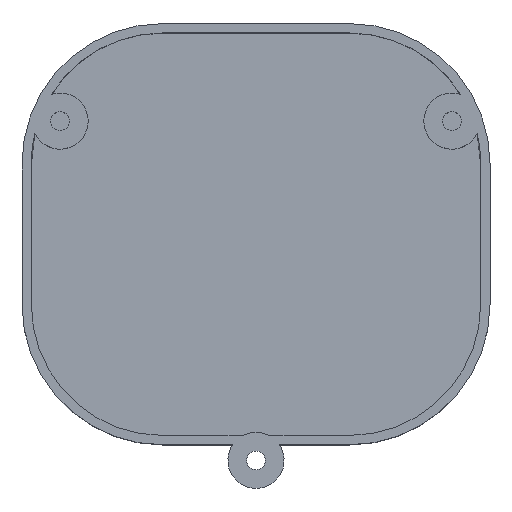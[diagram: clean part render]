
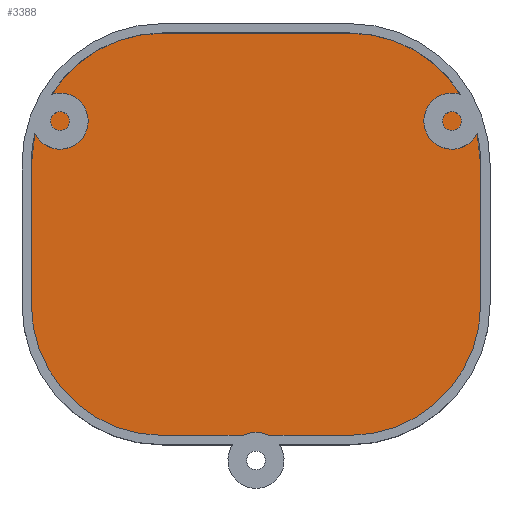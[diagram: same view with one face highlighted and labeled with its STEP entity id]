
A CAD part, top view. The second image highlights one B-rep face of the part: STEP entity #3388.
In plain terms, the highlighted planar face has unit normal (0, 0, 1).
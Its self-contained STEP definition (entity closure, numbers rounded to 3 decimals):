
#776 = PLANE('',#777);
#777 = AXIS2_PLACEMENT_3D('',#778,#779,#780);
#778 = CARTESIAN_POINT('',(-28.8,-25.8,1.));
#779 = DIRECTION('',(0.,1.,0.));
#780 = DIRECTION('',(1.,0.,0.));
#855 = CYLINDRICAL_SURFACE('',#856,16.8);
#856 = AXIS2_PLACEMENT_3D('',#857,#858,#859);
#857 = CARTESIAN_POINT('',(-12.,-9.,1.));
#858 = DIRECTION('',(0.,0.,1.));
#859 = DIRECTION('',(0.,-1.,0.));
#883 = PLANE('',#884);
#884 = AXIS2_PLACEMENT_3D('',#885,#886,#887);
#885 = CARTESIAN_POINT('',(-28.8,25.8,1.));
#886 = DIRECTION('',(1.,0.,-0.));
#887 = DIRECTION('',(0.,-1.,0.));
#911 = CYLINDRICAL_SURFACE('',#912,16.8);
#912 = AXIS2_PLACEMENT_3D('',#913,#914,#915);
#913 = CARTESIAN_POINT('',(-12.,9.,1.));
#914 = DIRECTION('',(0.,0.,1.));
#915 = DIRECTION('',(-0.,1.,0.));
#992 = PLANE('',#993);
#993 = AXIS2_PLACEMENT_3D('',#994,#995,#996);
#994 = CARTESIAN_POINT('',(28.8,25.8,1.));
#995 = DIRECTION('',(0.,-1.,0.));
#996 = DIRECTION('',(-1.,0.,0.));
#1020 = CYLINDRICAL_SURFACE('',#1021,16.8);
#1021 = AXIS2_PLACEMENT_3D('',#1022,#1023,#1024);
#1022 = CARTESIAN_POINT('',(12.,9.,1.));
#1023 = DIRECTION('',(0.,0.,1.));
#1024 = DIRECTION('',(1.,0.,-0.));
#1101 = PLANE('',#1102);
#1102 = AXIS2_PLACEMENT_3D('',#1103,#1104,#1105);
#1103 = CARTESIAN_POINT('',(28.8,-25.8,1.));
#1104 = DIRECTION('',(-1.,0.,0.));
#1105 = DIRECTION('',(0.,1.,0.));
#1127 = CYLINDRICAL_SURFACE('',#1128,16.8);
#1128 = AXIS2_PLACEMENT_3D('',#1129,#1130,#1131);
#1129 = CARTESIAN_POINT('',(12.,-9.,1.));
#1130 = DIRECTION('',(0.,0.,1.));
#1131 = DIRECTION('',(0.,-1.,0.));
#2188 = EDGE_CURVE('',#2189,#2191,#2193,.T.);
#2189 = VERTEX_POINT('',#2190);
#2190 = CARTESIAN_POINT('',(-12.,-25.8,1.));
#2191 = VERTEX_POINT('',#2192);
#2192 = CARTESIAN_POINT('',(12.,-25.8,1.));
#2193 = SURFACE_CURVE('',#2194,(#2198,#2205),.PCURVE_S1.);
#2194 = LINE('',#2195,#2196);
#2195 = CARTESIAN_POINT('',(-28.8,-25.8,1.));
#2196 = VECTOR('',#2197,1.);
#2197 = DIRECTION('',(1.,0.,0.));
#2198 = PCURVE('',#776,#2199);
#2199 = DEFINITIONAL_REPRESENTATION('',(#2200),#2204);
#2200 = LINE('',#2201,#2202);
#2201 = CARTESIAN_POINT('',(0.,0.));
#2202 = VECTOR('',#2203,1.);
#2203 = DIRECTION('',(1.,0.));
#2204 = ( GEOMETRIC_REPRESENTATION_CONTEXT(2) 
PARAMETRIC_REPRESENTATION_CONTEXT() REPRESENTATION_CONTEXT('2D SPACE',''
  ) );
#2205 = PCURVE('',#2206,#2211);
#2206 = PLANE('',#2207);
#2207 = AXIS2_PLACEMENT_3D('',#2208,#2209,#2210);
#2208 = CARTESIAN_POINT('',(0.,0.,1.));
#2209 = DIRECTION('',(0.,0.,1.));
#2210 = DIRECTION('',(1.,0.,-0.));
#2211 = DEFINITIONAL_REPRESENTATION('',(#2212),#2216);
#2212 = LINE('',#2213,#2214);
#2213 = CARTESIAN_POINT('',(-28.8,-25.8));
#2214 = VECTOR('',#2215,1.);
#2215 = DIRECTION('',(1.,0.));
#2216 = ( GEOMETRIC_REPRESENTATION_CONTEXT(2) 
PARAMETRIC_REPRESENTATION_CONTEXT() REPRESENTATION_CONTEXT('2D SPACE',''
  ) );
#2332 = EDGE_CURVE('',#2191,#2333,#2335,.T.);
#2333 = VERTEX_POINT('',#2334);
#2334 = CARTESIAN_POINT('',(28.8,-9.,1.));
#2335 = SURFACE_CURVE('',#2336,(#2341,#2348),.PCURVE_S1.);
#2336 = CIRCLE('',#2337,16.8);
#2337 = AXIS2_PLACEMENT_3D('',#2338,#2339,#2340);
#2338 = CARTESIAN_POINT('',(12.,-9.,1.));
#2339 = DIRECTION('',(0.,0.,1.));
#2340 = DIRECTION('',(0.,-1.,0.));
#2341 = PCURVE('',#1127,#2342);
#2342 = DEFINITIONAL_REPRESENTATION('',(#2343),#2347);
#2343 = LINE('',#2344,#2345);
#2344 = CARTESIAN_POINT('',(0.,0.));
#2345 = VECTOR('',#2346,1.);
#2346 = DIRECTION('',(1.,0.));
#2347 = ( GEOMETRIC_REPRESENTATION_CONTEXT(2) 
PARAMETRIC_REPRESENTATION_CONTEXT() REPRESENTATION_CONTEXT('2D SPACE',''
  ) );
#2348 = PCURVE('',#2206,#2349);
#2349 = DEFINITIONAL_REPRESENTATION('',(#2350),#2354);
#2350 = CIRCLE('',#2351,16.8);
#2351 = AXIS2_PLACEMENT_2D('',#2352,#2353);
#2352 = CARTESIAN_POINT('',(12.,-9.));
#2353 = DIRECTION('',(0.,-1.));
#2354 = ( GEOMETRIC_REPRESENTATION_CONTEXT(2) 
PARAMETRIC_REPRESENTATION_CONTEXT() REPRESENTATION_CONTEXT('2D SPACE',''
  ) );
#2409 = EDGE_CURVE('',#2333,#2410,#2412,.T.);
#2410 = VERTEX_POINT('',#2411);
#2411 = CARTESIAN_POINT('',(28.8,9.,1.));
#2412 = SURFACE_CURVE('',#2413,(#2417,#2424),.PCURVE_S1.);
#2413 = LINE('',#2414,#2415);
#2414 = CARTESIAN_POINT('',(28.8,-25.8,1.));
#2415 = VECTOR('',#2416,1.);
#2416 = DIRECTION('',(0.,1.,0.));
#2417 = PCURVE('',#1101,#2418);
#2418 = DEFINITIONAL_REPRESENTATION('',(#2419),#2423);
#2419 = LINE('',#2420,#2421);
#2420 = CARTESIAN_POINT('',(0.,0.));
#2421 = VECTOR('',#2422,1.);
#2422 = DIRECTION('',(1.,0.));
#2423 = ( GEOMETRIC_REPRESENTATION_CONTEXT(2) 
PARAMETRIC_REPRESENTATION_CONTEXT() REPRESENTATION_CONTEXT('2D SPACE',''
  ) );
#2424 = PCURVE('',#2206,#2425);
#2425 = DEFINITIONAL_REPRESENTATION('',(#2426),#2430);
#2426 = LINE('',#2427,#2428);
#2427 = CARTESIAN_POINT('',(28.8,-25.8));
#2428 = VECTOR('',#2429,1.);
#2429 = DIRECTION('',(0.,1.));
#2430 = ( GEOMETRIC_REPRESENTATION_CONTEXT(2) 
PARAMETRIC_REPRESENTATION_CONTEXT() REPRESENTATION_CONTEXT('2D SPACE',''
  ) );
#2459 = EDGE_CURVE('',#2410,#2460,#2462,.T.);
#2460 = VERTEX_POINT('',#2461);
#2461 = CARTESIAN_POINT('',(12.,25.8,1.));
#2462 = SURFACE_CURVE('',#2463,(#2468,#2475),.PCURVE_S1.);
#2463 = CIRCLE('',#2464,16.8);
#2464 = AXIS2_PLACEMENT_3D('',#2465,#2466,#2467);
#2465 = CARTESIAN_POINT('',(12.,9.,1.));
#2466 = DIRECTION('',(0.,0.,1.));
#2467 = DIRECTION('',(0.,-1.,0.));
#2468 = PCURVE('',#1020,#2469);
#2469 = DEFINITIONAL_REPRESENTATION('',(#2470),#2474);
#2470 = LINE('',#2471,#2472);
#2471 = CARTESIAN_POINT('',(-1.571,0.));
#2472 = VECTOR('',#2473,1.);
#2473 = DIRECTION('',(1.,0.));
#2474 = ( GEOMETRIC_REPRESENTATION_CONTEXT(2) 
PARAMETRIC_REPRESENTATION_CONTEXT() REPRESENTATION_CONTEXT('2D SPACE',''
  ) );
#2475 = PCURVE('',#2206,#2476);
#2476 = DEFINITIONAL_REPRESENTATION('',(#2477),#2481);
#2477 = CIRCLE('',#2478,16.8);
#2478 = AXIS2_PLACEMENT_2D('',#2479,#2480);
#2479 = CARTESIAN_POINT('',(12.,9.));
#2480 = DIRECTION('',(0.,-1.));
#2481 = ( GEOMETRIC_REPRESENTATION_CONTEXT(2) 
PARAMETRIC_REPRESENTATION_CONTEXT() REPRESENTATION_CONTEXT('2D SPACE',''
  ) );
#2579 = EDGE_CURVE('',#2189,#2580,#2582,.T.);
#2580 = VERTEX_POINT('',#2581);
#2581 = CARTESIAN_POINT('',(-28.8,-9.,1.));
#2582 = SURFACE_CURVE('',#2583,(#2588,#2595),.PCURVE_S1.);
#2583 = CIRCLE('',#2584,16.8);
#2584 = AXIS2_PLACEMENT_3D('',#2585,#2586,#2587);
#2585 = CARTESIAN_POINT('',(-12.,-9.,1.));
#2586 = DIRECTION('',(-0.,-0.,-1.));
#2587 = DIRECTION('',(0.,-1.,0.));
#2588 = PCURVE('',#855,#2589);
#2589 = DEFINITIONAL_REPRESENTATION('',(#2590),#2594);
#2590 = LINE('',#2591,#2592);
#2591 = CARTESIAN_POINT('',(-0.,0.));
#2592 = VECTOR('',#2593,1.);
#2593 = DIRECTION('',(-1.,0.));
#2594 = ( GEOMETRIC_REPRESENTATION_CONTEXT(2) 
PARAMETRIC_REPRESENTATION_CONTEXT() REPRESENTATION_CONTEXT('2D SPACE',''
  ) );
#2595 = PCURVE('',#2206,#2596);
#2596 = DEFINITIONAL_REPRESENTATION('',(#2597),#2605);
#2597 = ( BOUNDED_CURVE() B_SPLINE_CURVE(2,(#2598,#2599,#2600,#2601,
#2602,#2603,#2604),.UNSPECIFIED.,.T.,.F.) B_SPLINE_CURVE_WITH_KNOTS((1,2
    ,2,2,2,1),(-2.094,0.,2.094,4.189,
6.283,8.378),.UNSPECIFIED.) CURVE() 
GEOMETRIC_REPRESENTATION_ITEM() RATIONAL_B_SPLINE_CURVE((1.,0.5,1.,0.5,
1.,0.5,1.)) REPRESENTATION_ITEM('') );
#2598 = CARTESIAN_POINT('',(-12.,-25.8));
#2599 = CARTESIAN_POINT('',(-41.098,-25.8));
#2600 = CARTESIAN_POINT('',(-26.549,-0.6));
#2601 = CARTESIAN_POINT('',(-12.,24.6));
#2602 = CARTESIAN_POINT('',(2.549,-0.6));
#2603 = CARTESIAN_POINT('',(17.098,-25.8));
#2604 = CARTESIAN_POINT('',(-12.,-25.8));
#2605 = ( GEOMETRIC_REPRESENTATION_CONTEXT(2) 
PARAMETRIC_REPRESENTATION_CONTEXT() REPRESENTATION_CONTEXT('2D SPACE',''
  ) );
#2660 = EDGE_CURVE('',#2661,#2580,#2663,.T.);
#2661 = VERTEX_POINT('',#2662);
#2662 = CARTESIAN_POINT('',(-28.8,9.,1.));
#2663 = SURFACE_CURVE('',#2664,(#2668,#2675),.PCURVE_S1.);
#2664 = LINE('',#2665,#2666);
#2665 = CARTESIAN_POINT('',(-28.8,25.8,1.));
#2666 = VECTOR('',#2667,1.);
#2667 = DIRECTION('',(0.,-1.,0.));
#2668 = PCURVE('',#883,#2669);
#2669 = DEFINITIONAL_REPRESENTATION('',(#2670),#2674);
#2670 = LINE('',#2671,#2672);
#2671 = CARTESIAN_POINT('',(0.,0.));
#2672 = VECTOR('',#2673,1.);
#2673 = DIRECTION('',(1.,0.));
#2674 = ( GEOMETRIC_REPRESENTATION_CONTEXT(2) 
PARAMETRIC_REPRESENTATION_CONTEXT() REPRESENTATION_CONTEXT('2D SPACE',''
  ) );
#2675 = PCURVE('',#2206,#2676);
#2676 = DEFINITIONAL_REPRESENTATION('',(#2677),#2681);
#2677 = LINE('',#2678,#2679);
#2678 = CARTESIAN_POINT('',(-28.8,25.8));
#2679 = VECTOR('',#2680,1.);
#2680 = DIRECTION('',(0.,-1.));
#2681 = ( GEOMETRIC_REPRESENTATION_CONTEXT(2) 
PARAMETRIC_REPRESENTATION_CONTEXT() REPRESENTATION_CONTEXT('2D SPACE',''
  ) );
#2710 = VERTEX_POINT('',#2711);
#2711 = CARTESIAN_POINT('',(-12.,25.8,1.));
#2732 = EDGE_CURVE('',#2710,#2661,#2733,.T.);
#2733 = SURFACE_CURVE('',#2734,(#2739,#2746),.PCURVE_S1.);
#2734 = CIRCLE('',#2735,16.8);
#2735 = AXIS2_PLACEMENT_3D('',#2736,#2737,#2738);
#2736 = CARTESIAN_POINT('',(-12.,9.,1.));
#2737 = DIRECTION('',(0.,0.,1.));
#2738 = DIRECTION('',(0.,-1.,0.));
#2739 = PCURVE('',#911,#2740);
#2740 = DEFINITIONAL_REPRESENTATION('',(#2741),#2745);
#2741 = LINE('',#2742,#2743);
#2742 = CARTESIAN_POINT('',(-3.142,0.));
#2743 = VECTOR('',#2744,1.);
#2744 = DIRECTION('',(1.,0.));
#2745 = ( GEOMETRIC_REPRESENTATION_CONTEXT(2) 
PARAMETRIC_REPRESENTATION_CONTEXT() REPRESENTATION_CONTEXT('2D SPACE',''
  ) );
#2746 = PCURVE('',#2206,#2747);
#2747 = DEFINITIONAL_REPRESENTATION('',(#2748),#2752);
#2748 = CIRCLE('',#2749,16.8);
#2749 = AXIS2_PLACEMENT_2D('',#2750,#2751);
#2750 = CARTESIAN_POINT('',(-12.,9.));
#2751 = DIRECTION('',(0.,-1.));
#2752 = ( GEOMETRIC_REPRESENTATION_CONTEXT(2) 
PARAMETRIC_REPRESENTATION_CONTEXT() REPRESENTATION_CONTEXT('2D SPACE',''
  ) );
#2829 = EDGE_CURVE('',#2460,#2710,#2830,.T.);
#2830 = SURFACE_CURVE('',#2831,(#2835,#2842),.PCURVE_S1.);
#2831 = LINE('',#2832,#2833);
#2832 = CARTESIAN_POINT('',(28.8,25.8,1.));
#2833 = VECTOR('',#2834,1.);
#2834 = DIRECTION('',(-1.,0.,0.));
#2835 = PCURVE('',#992,#2836);
#2836 = DEFINITIONAL_REPRESENTATION('',(#2837),#2841);
#2837 = LINE('',#2838,#2839);
#2838 = CARTESIAN_POINT('',(0.,-0.));
#2839 = VECTOR('',#2840,1.);
#2840 = DIRECTION('',(1.,0.));
#2841 = ( GEOMETRIC_REPRESENTATION_CONTEXT(2) 
PARAMETRIC_REPRESENTATION_CONTEXT() REPRESENTATION_CONTEXT('2D SPACE',''
  ) );
#2842 = PCURVE('',#2206,#2843);
#2843 = DEFINITIONAL_REPRESENTATION('',(#2844),#2848);
#2844 = LINE('',#2845,#2846);
#2845 = CARTESIAN_POINT('',(28.8,25.8));
#2846 = VECTOR('',#2847,1.);
#2847 = DIRECTION('',(-1.,0.));
#2848 = ( GEOMETRIC_REPRESENTATION_CONTEXT(2) 
PARAMETRIC_REPRESENTATION_CONTEXT() REPRESENTATION_CONTEXT('2D SPACE',''
  ) );
#3388 = ADVANCED_FACE('',(#3389),#2206,.T.);
#3389 = FACE_BOUND('',#3390,.T.);
#3390 = EDGE_LOOP('',(#3391,#3392,#3393,#3394,#3395,#3396,#3397,#3398));
#3391 = ORIENTED_EDGE('',*,*,#2188,.T.);
#3392 = ORIENTED_EDGE('',*,*,#2332,.T.);
#3393 = ORIENTED_EDGE('',*,*,#2409,.T.);
#3394 = ORIENTED_EDGE('',*,*,#2459,.T.);
#3395 = ORIENTED_EDGE('',*,*,#2829,.T.);
#3396 = ORIENTED_EDGE('',*,*,#2732,.T.);
#3397 = ORIENTED_EDGE('',*,*,#2660,.T.);
#3398 = ORIENTED_EDGE('',*,*,#2579,.F.);
